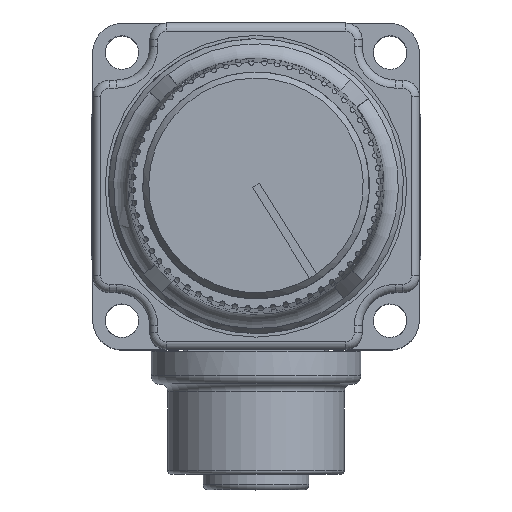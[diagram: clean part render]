
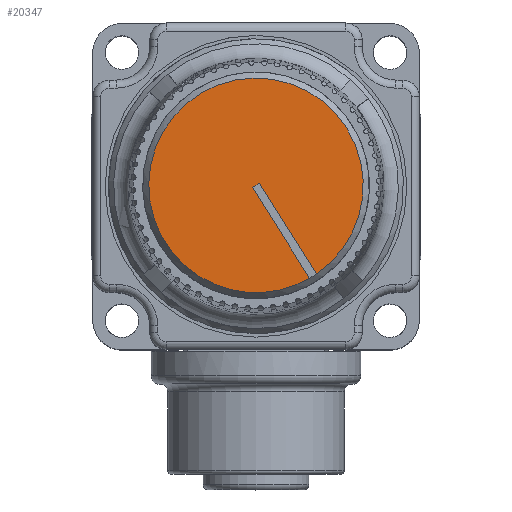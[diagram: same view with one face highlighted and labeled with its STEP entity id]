
A CAD part, top view. The second image highlights one B-rep face of the part: STEP entity #20347.
In plain terms, the highlighted planar face has unit normal (0, 0, 1).
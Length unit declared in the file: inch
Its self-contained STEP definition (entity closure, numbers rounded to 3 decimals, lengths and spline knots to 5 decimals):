
#2211=LINE('',#39642,#3602);
#2216=LINE('',#39661,#3607);
#2219=LINE('',#39666,#3610);
#3602=VECTOR('',#26990,0.3937);
#3607=VECTOR('',#27001,0.3937);
#3610=VECTOR('',#27006,0.3937);
#4940=FACE_OUTER_BOUND('',#6152,.T.);
#6152=EDGE_LOOP('',(#16541,#16542,#16543,#16544,#16545));
#7040=CIRCLE('',#22238,0.4);
#7041=CIRCLE('',#22239,0.4);
#8788=VERTEX_POINT('',#39640);
#8789=VERTEX_POINT('',#39641);
#8792=VERTEX_POINT('',#39654);
#8794=VERTEX_POINT('',#39660);
#8796=VERTEX_POINT('',#39670);
#11417=EDGE_CURVE('',#8788,#8789,#2211,.T.);
#11424=EDGE_CURVE('',#8794,#8792,#2216,.T.);
#11427=EDGE_CURVE('',#8789,#8794,#2219,.T.);
#11429=EDGE_CURVE('',#8792,#8796,#7040,.T.);
#11430=EDGE_CURVE('',#8796,#8788,#7041,.T.);
#16541=ORIENTED_EDGE('',*,*,#11424,.T.);
#16542=ORIENTED_EDGE('',*,*,#11429,.T.);
#16543=ORIENTED_EDGE('',*,*,#11430,.T.);
#16544=ORIENTED_EDGE('',*,*,#11417,.T.);
#16545=ORIENTED_EDGE('',*,*,#11427,.T.);
#18254=PLANE('',#22242);
#20347=ADVANCED_FACE('',(#4940),#18254,.T.);
#22238=AXIS2_PLACEMENT_3D('',#39671,#27012,#27013);
#22239=AXIS2_PLACEMENT_3D('',#39672,#27014,#27015);
#22242=AXIS2_PLACEMENT_3D('',#39678,#27021,#27022);
#26990=DIRECTION('',(-0.532,0.847,0.));
#27001=DIRECTION('',(0.532,-0.847,0.));
#27006=DIRECTION('',(0.847,0.532,0.));
#27012=DIRECTION('center_axis',(0.,0.,1.));
#27013=DIRECTION('ref_axis',(0.847,0.532,0.));
#27014=DIRECTION('center_axis',(0.,0.,1.));
#27015=DIRECTION('ref_axis',(0.847,0.532,0.));
#27021=DIRECTION('center_axis',(0.,0.,1.));
#27022=DIRECTION('ref_axis',(1.,0.,0.));
#39640=CARTESIAN_POINT('',(0.00343,-0.27614,1.8705));
#39641=CARTESIAN_POINT('',(-0.20906,0.06242,1.8705));
#39642=CARTESIAN_POINT('',(0.00343,-0.27614,1.8705));
#39654=CARTESIAN_POINT('',(0.02884,-0.26019,1.8705));
#39660=CARTESIAN_POINT('',(-0.18365,0.07837,1.8705));
#39661=CARTESIAN_POINT('',(-0.18365,0.07837,1.8705));
#39666=CARTESIAN_POINT('',(-0.20906,0.06242,1.8705));
#39670=CARTESIAN_POINT('',(-0.34851,-0.29954,1.8705));
#39671=CARTESIAN_POINT('Origin',(-0.19636,0.07039,
1.8705));
#39672=CARTESIAN_POINT('Origin',(-0.19636,0.07039,
1.8705));
#39678=CARTESIAN_POINT('Origin',(-0.54513,-0.14544,
1.8705));
